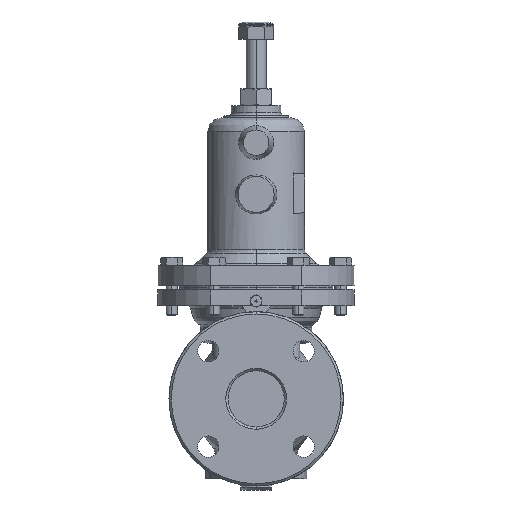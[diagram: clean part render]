
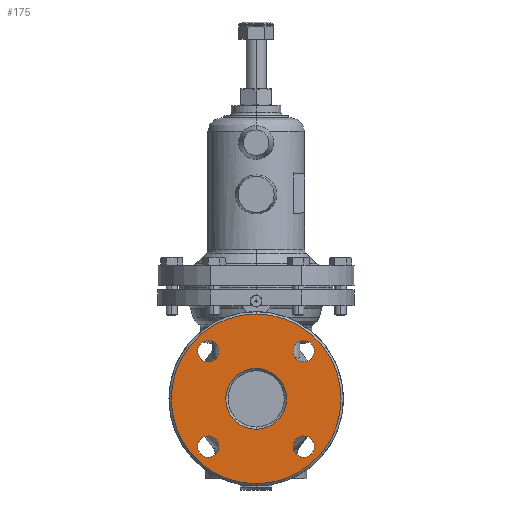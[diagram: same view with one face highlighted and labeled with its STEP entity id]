
A CAD part, left-side view. The second image highlights one B-rep face of the part: STEP entity #175.
In plain terms, the highlighted planar face has unit normal (-1, 0, 0).
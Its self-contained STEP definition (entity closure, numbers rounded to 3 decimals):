
#175=ADVANCED_FACE('',(#882,#883,#884,#885,#886,#887),#881,.F.);
#881=PLANE('',#5994);
#882=FACE_OUTER_BOUND('',#5995,.T.);
#883=FACE_BOUND('',#5996,.T.);
#884=FACE_BOUND('',#5997,.T.);
#885=FACE_BOUND('',#5998,.T.);
#886=FACE_BOUND('',#5999,.T.);
#887=FACE_BOUND('',#6000,.T.);
#5991=CARTESIAN_POINT('',(-97.5,-140.77,161.));
#5992=DIRECTION('',(1.,0.,0.));
#5993=DIRECTION('',(0.,0.,-1.));
#5994=AXIS2_PLACEMENT_3D('',#5991,#5992,#5993);
#5995=EDGE_LOOP('',(#10830,#10831));
#5996=EDGE_LOOP('',(#10832,#10833));
#5997=EDGE_LOOP('',(#10834,#10835));
#5998=EDGE_LOOP('',(#10836,#10837));
#5999=EDGE_LOOP('',(#10838,#10839));
#6000=EDGE_LOOP('',(#10840,#10841));
#10830=ORIENTED_EDGE('',*,*,#13223,.T.);
#10831=ORIENTED_EDGE('',*,*,#13224,.T.);
#10832=ORIENTED_EDGE('',*,*,#13225,.F.);
#10833=ORIENTED_EDGE('',*,*,#13226,.F.);
#10834=ORIENTED_EDGE('',*,*,#13227,.F.);
#10835=ORIENTED_EDGE('',*,*,#13228,.F.);
#10836=ORIENTED_EDGE('',*,*,#13229,.F.);
#10837=ORIENTED_EDGE('',*,*,#13230,.F.);
#10838=ORIENTED_EDGE('',*,*,#13231,.F.);
#10839=ORIENTED_EDGE('',*,*,#13232,.F.);
#10840=ORIENTED_EDGE('',*,*,#13233,.F.);
#10841=ORIENTED_EDGE('',*,*,#13234,.F.);
#13223=EDGE_CURVE('',#14894,#14895,#14896,.T.);
#13224=EDGE_CURVE('',#14895,#14894,#14902,.T.);
#13225=EDGE_CURVE('',#14908,#14909,#14910,.T.);
#13226=EDGE_CURVE('',#14909,#14908,#14916,.T.);
#13227=EDGE_CURVE('',#14922,#14923,#14924,.T.);
#13228=EDGE_CURVE('',#14923,#14922,#14930,.T.);
#13229=EDGE_CURVE('',#14936,#14937,#14938,.T.);
#13230=EDGE_CURVE('',#14937,#14936,#14944,.T.);
#13231=EDGE_CURVE('',#14950,#14951,#14952,.T.);
#13232=EDGE_CURVE('',#14951,#14950,#14958,.T.);
#13233=EDGE_CURVE('',#14964,#14965,#14966,.T.);
#13234=EDGE_CURVE('',#14965,#14964,#14972,.T.);
#14894=VERTEX_POINT('',#23029);
#14895=VERTEX_POINT('',#23030);
#14896=CIRCLE('',#23034,75.5);
#14902=CIRCLE('',#23038,75.5);
#14908=VERTEX_POINT('',#23039);
#14909=VERTEX_POINT('',#23040);
#14910=CIRCLE('',#23044,9.5);
#14916=CIRCLE('',#23048,9.5);
#14922=VERTEX_POINT('',#23049);
#14923=VERTEX_POINT('',#23050);
#14924=CIRCLE('',#23054,9.5);
#14930=CIRCLE('',#23058,9.5);
#14936=VERTEX_POINT('',#23059);
#14937=VERTEX_POINT('',#23060);
#14938=CIRCLE('',#23064,9.5);
#14944=CIRCLE('',#23068,9.5);
#14950=VERTEX_POINT('',#23069);
#14951=VERTEX_POINT('',#23070);
#14952=CIRCLE('',#23074,9.5);
#14958=CIRCLE('',#23078,9.5);
#14964=VERTEX_POINT('',#23079);
#14965=VERTEX_POINT('',#23080);
#14966=CIRCLE('',#23084,27.);
#14972=CIRCLE('',#23088,27.);
#23029=CARTESIAN_POINT('',(-97.5,0.,-75.5));
#23030=CARTESIAN_POINT('',(-97.5,0.,75.5));
#23031=CARTESIAN_POINT('',(-97.5,0.,0.));
#23032=DIRECTION('',(-1.,0.,0.));
#23033=DIRECTION('',(0.,0.,-1.));
#23034=AXIS2_PLACEMENT_3D('',#23031,#23032,#23033);
#23035=CARTESIAN_POINT('',(-97.5,0.,0.));
#23036=DIRECTION('',(-1.,0.,0.));
#23037=DIRECTION('',(0.,0.,-1.));
#23038=AXIS2_PLACEMENT_3D('',#23035,#23036,#23037);
#23039=CARTESIAN_POINT('',(-97.5,42.552,-32.926));
#23040=CARTESIAN_POINT('',(-97.5,42.552,-51.926));
#23041=CARTESIAN_POINT('',(-97.5,42.552,-42.426));
#23042=DIRECTION('',(-1.,0.,0.));
#23043=DIRECTION('',(0.,0.,-1.));
#23044=AXIS2_PLACEMENT_3D('',#23041,#23042,#23043);
#23045=CARTESIAN_POINT('',(-97.5,42.552,-42.426));
#23046=DIRECTION('',(-1.,0.,0.));
#23047=DIRECTION('',(0.,0.,-1.));
#23048=AXIS2_PLACEMENT_3D('',#23045,#23046,#23047);
#23049=CARTESIAN_POINT('',(-97.5,-42.301,51.926));
#23050=CARTESIAN_POINT('',(-97.5,-42.301,32.926));
#23051=CARTESIAN_POINT('',(-97.5,-42.301,42.426));
#23052=DIRECTION('',(-1.,0.,0.));
#23053=DIRECTION('',(0.,0.,-1.));
#23054=AXIS2_PLACEMENT_3D('',#23051,#23052,#23053);
#23055=CARTESIAN_POINT('',(-97.5,-42.301,42.426));
#23056=DIRECTION('',(-1.,0.,0.));
#23057=DIRECTION('',(0.,0.,-1.));
#23058=AXIS2_PLACEMENT_3D('',#23055,#23056,#23057);
#23059=CARTESIAN_POINT('',(-97.5,42.552,51.926));
#23060=CARTESIAN_POINT('',(-97.5,42.552,32.926));
#23061=CARTESIAN_POINT('',(-97.5,42.552,42.426));
#23062=DIRECTION('',(-1.,0.,0.));
#23063=DIRECTION('',(0.,0.,-1.));
#23064=AXIS2_PLACEMENT_3D('',#23061,#23062,#23063);
#23065=CARTESIAN_POINT('',(-97.5,42.552,42.426));
#23066=DIRECTION('',(-1.,0.,0.));
#23067=DIRECTION('',(0.,0.,-1.));
#23068=AXIS2_PLACEMENT_3D('',#23065,#23066,#23067);
#23069=CARTESIAN_POINT('',(-97.5,-42.301,-32.926));
#23070=CARTESIAN_POINT('',(-97.5,-42.301,-51.926));
#23071=CARTESIAN_POINT('',(-97.5,-42.301,-42.426));
#23072=DIRECTION('',(-1.,0.,0.));
#23073=DIRECTION('',(0.,0.,-1.));
#23074=AXIS2_PLACEMENT_3D('',#23071,#23072,#23073);
#23075=CARTESIAN_POINT('',(-97.5,-42.301,-42.426));
#23076=DIRECTION('',(-1.,0.,0.));
#23077=DIRECTION('',(0.,0.,-1.));
#23078=AXIS2_PLACEMENT_3D('',#23075,#23076,#23077);
#23079=CARTESIAN_POINT('',(-97.5,0.,27.));
#23080=CARTESIAN_POINT('',(-97.5,0.,-27.));
#23081=CARTESIAN_POINT('',(-97.5,0.,0.));
#23082=DIRECTION('',(-1.,0.,0.));
#23083=DIRECTION('',(0.,0.,-1.));
#23084=AXIS2_PLACEMENT_3D('',#23081,#23082,#23083);
#23085=CARTESIAN_POINT('',(-97.5,0.,0.));
#23086=DIRECTION('',(-1.,0.,0.));
#23087=DIRECTION('',(0.,0.,-1.));
#23088=AXIS2_PLACEMENT_3D('',#23085,#23086,#23087);
